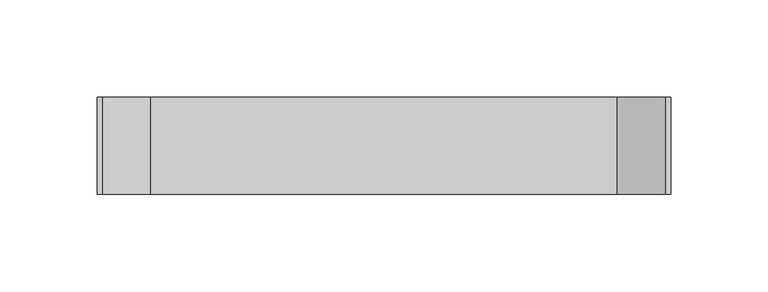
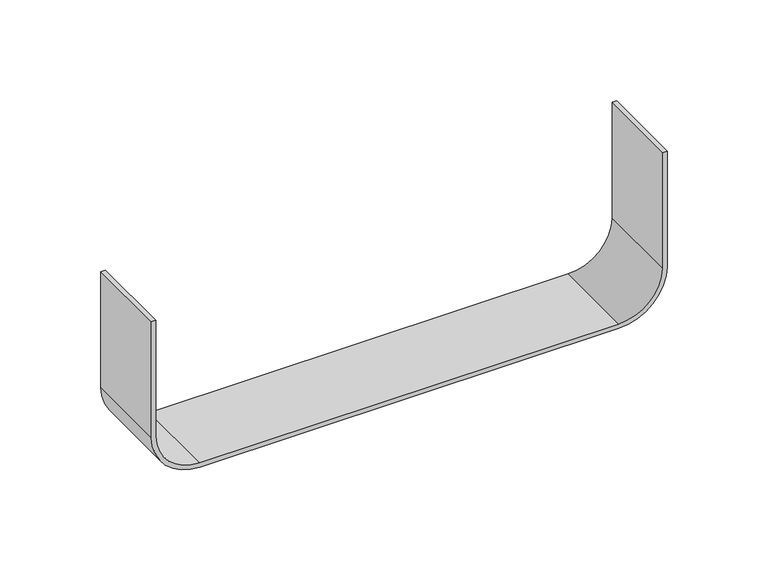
"""IFC4 building model written with IfcOpenShell, lengths in millimetres: cable carrier fitting geometry, CCT_Hyperline_FBTR-CNT Соединение лотков для оптического лотка : Соединение лотков для оптического лотка."""

from ifc_helpers import new_model, si_unit, point, frame, frame_2d, origin, place, context, project, spatial, polyline, circle_curve, trimmed, segment, composite_curve, outline, extrude, source, transform, mapped, element, save


def cable_carrier_fitting_eb514e49(model_context):
    return source(origin(), model_context, "Body", "SweptSolid", [
        extrude(outline(composite_curve([segment(polyline([(-19.96, -144.96), (50.0, -144.96), (50.0, -147.5), (-19.96, -147.5)]), True, "CONTINUOUS"), segment(trimmed(circle_curve(frame_2d((-19.96, -119.96)), 27.54), [point((-19.96, -147.5))], [point((-47.5, -119.96))], False, "CARTESIAN"), True, "CONTINUOUS"), segment(polyline([(-47.5, -119.96), (-47.5, 119.96)]), True, "CONTINUOUS"), segment(trimmed(circle_curve(frame_2d((-19.96, 119.96)), 27.54), [point((-47.5, 119.96))], [point((-19.96, 147.5))], False, "CARTESIAN"), True, "CONTINUOUS"), segment(polyline([(-19.96, 147.5), (50.0, 147.5), (50.0, 144.96), (-19.96, 144.96)]), True, "CONTINUOUS"), segment(trimmed(circle_curve(frame_2d((-19.96, 119.96)), 25.0), [point((-19.96, 144.96))], [point((-44.96, 119.96))], True, "CARTESIAN"), True, "CONTINUOUS"), segment(polyline([(-44.96, 119.96), (-44.96, -119.96)]), True, "CONTINUOUS"), segment(trimmed(circle_curve(frame_2d((-19.96, -119.96)), 25.0), [point((-44.96, -119.96))], [point((-19.96, -144.96))], True, "CARTESIAN"), True, "CONTINUOUS")], self_intersect=False)), frame((0.0, -25.0, 0.0), z_axis=(0.0, 1.0, 0.0), x_axis=(0.0, 0.0, 1.0)), (0.0, 0.0, 1.0), 50.0),
    ])


if __name__ == "__main__":
    model = new_model("IFC4")
    model_context = context("Model", 3, world=origin())
    ifc_project = project(units=[si_unit("LENGTHUNIT", "METRE", prefix="MILLI")], contexts=[model_context])
    site = spatial("IfcSite", under=ifc_project)
    building = spatial("IfcBuilding", under=site)
    placement = place(None, origin())
    cable_carrier_fitting_shape = cable_carrier_fitting_eb514e49(model_context)
    element("IfcCableCarrierFitting", 1, ObjectType="CCT_Hyperline_FBTR-CNT Соединение лотков для оптического лотка : Соединение лотков для оптического лотка", at=placement, inside=building, context=model_context, shape_type="MappedRepresentation", body=[
        mapped(cable_carrier_fitting_shape, transform((0.0, 0.0, 0.0), x_axis=(1.0, 0.0, 0.0), y_axis=(0.0, 1.0, 0.0), z_axis=(0.0, 0.0, 1.0))),
    ])
    save(model, "model.ifc")
